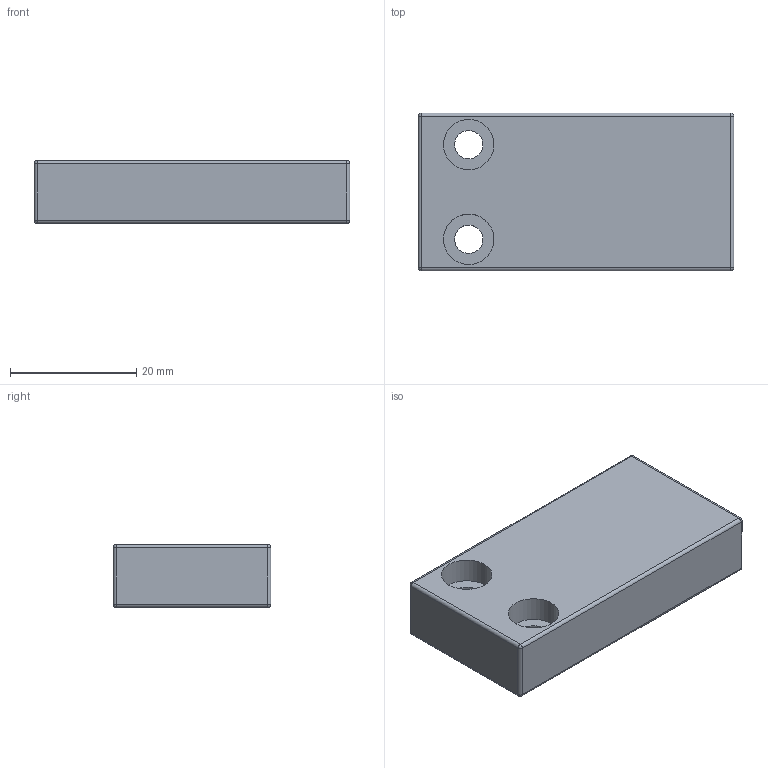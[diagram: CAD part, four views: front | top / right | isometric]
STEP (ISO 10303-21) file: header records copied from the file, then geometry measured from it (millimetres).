
FILE_DESCRIPTION(/* description */ ('Katalogmodell Elobau'),/* implementation_level */ '2;1');
FILE_NAME(/* name */ 'Katalogdaten.stp',/* time_stamp */ '2014-08-25T11:12:29+02:00',/* author */ ('Elobau GmbH & Co. KG'),/* organization */ ('Elobau GmbH & Co. KG'),/* preprocessor_version */ 'ST-DEVELOPER v15',/* originating_system */ 'SIEMENS PLM Software NX 8.5',/* authorisation */ '');
FILE_SCHEMA (('AUTOMOTIVE_DESIGN { 1 0 10303 214 3 1 1 1 }'));
Length unit declared in the file: millimetre
Products named in the file (1): 304275.2_A
Bounding box: 50 x 25 x 10 mm (x, y, z)
Volume: 11889 mm3; surface area: 4233.8 mm2
Topology: 1 solids, 1 shells, 32 faces, 68 edges, 32 vertices
Faces by surface type: cylinder 16, sphere 8, plane 8
Full cylindrical faces by diameter (mm): 4.5 x2, 8 x2
Entity records: 797 total; most frequent: DIRECTION 154, CARTESIAN_POINT 121, ORIENTED_EDGE 112, AXIS2_PLACEMENT_3D 65, EDGE_CURVE 56, EDGE_LOOP 42, ADVANCED_FACE 32, VERTEX_POINT 32
